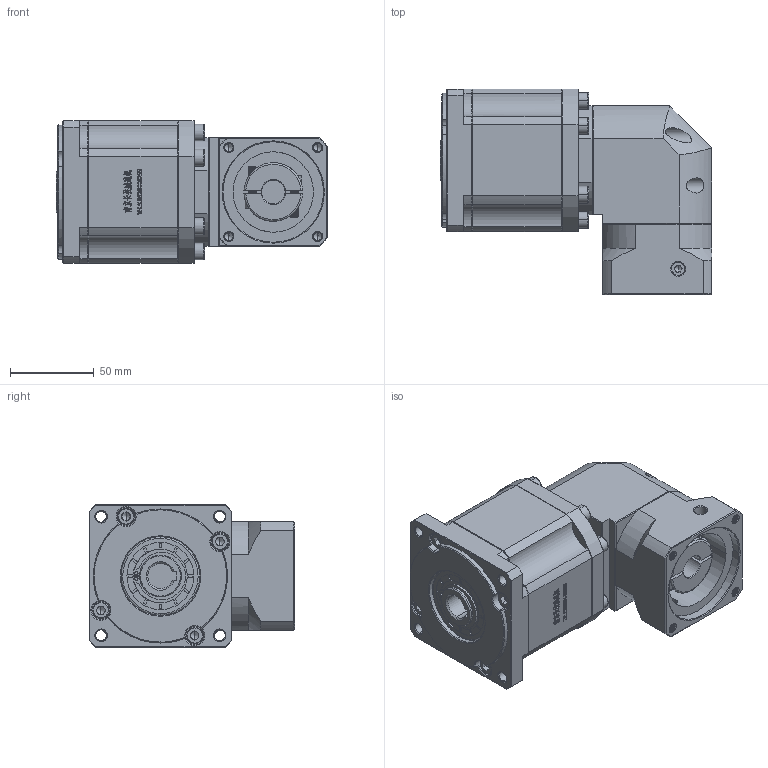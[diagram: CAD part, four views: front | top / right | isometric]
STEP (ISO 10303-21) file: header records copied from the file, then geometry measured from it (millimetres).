
FILE_DESCRIPTION (( 'STEP AP214' ), '1' );
FILE_NAME ('ZBR90-K15-L3-14-60-75-M6.step', '2022-05-07T15:26:41', ( '' ), ( 'Microsoft' ), 'SwSTEP 2.0', 'SolidWorks 2016', '' );
FILE_SCHEMA (( 'AUTOMOTIVE_DESIGN' ));
Length unit declared in the file: millimetre
Products named in the file (1): ZBR90-K15-L3-14-60-75-M6
Bounding box: 162 x 122.7 x 85 mm (x, y, z)
Volume: 917700.3 mm3; surface area: 105737.9 mm2
Topology: 5 solids, 5 shells, 2986 faces, 8029 edges, 5186 vertices
Faces by surface type: plane 1591, bspline 598, cylinder 414, cone 363, torus 20
Entity records: 156882 total; most frequent: CARTESIAN_POINT 53528, ORIENTED_EDGE 15970, DIRECTION 12382, EDGE_CURVE 7985, LINE 5314, VECTOR 5314, VERTEX_POINT 5186, AXIS2_PLACEMENT_3D 3534
